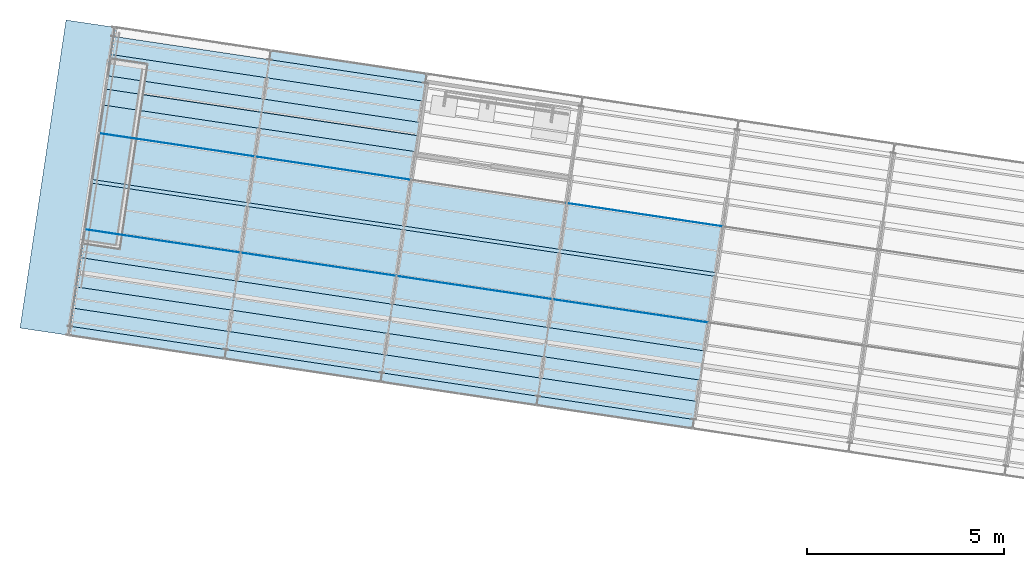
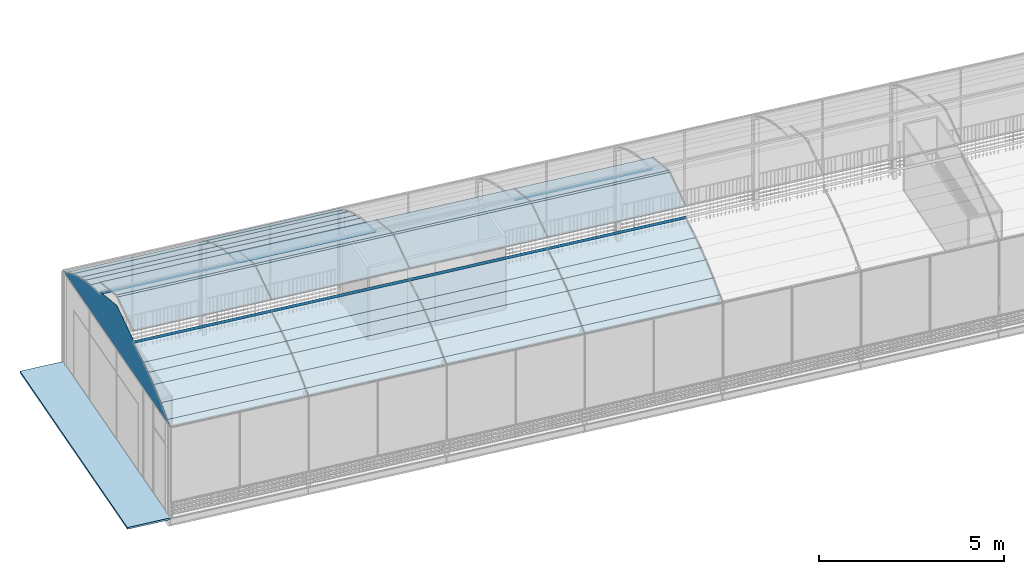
# One storey, part 25 of 34: 55 plates, 1 slab, 1 element without a shape of its own.
"""IFC4 building model written with IfcOpenShell, lengths in metres."""

from ifc_helpers import new_model, si_unit, direction, frame, origin_with_axes, place, context, subcontext, project, spatial, polyline, outline, extrude, material, element, aggregate, save


model = new_model("IFC4")

# Units and contexts
model_context = context("Model", 3, precision=1e-05, world=origin_with_axes(), true_north=direction((0.0, 1.0)))
body_context = subcontext(model_context, "Body", "Model", "MODEL_VIEW")
ifc_project = project(units=[si_unit("VOLUMEUNIT", "CUBIC_METRE"), si_unit("LENGTHUNIT", "METRE"), si_unit("AREAUNIT", "SQUARE_METRE")], contexts=[model_context])

# Site, building, storey
site_placement = place(None, origin_with_axes())
site = spatial("IfcSite", under=ifc_project, at=site_placement, Name="Lares · Rua das Mercês · artigo 4771")
building_placement = place(site_placement, frame((12.0, 10.2, 13.9), z_axis=(0.0, 0.0, 1.0), x_axis=(0.989015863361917, -0.147809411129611, 0.0)))
building = spatial("IfcBuilding", under=site, at=building_placement, Name="Casa Sobreposta")
storey_placement = place(building_placement, frame((0.0, 0.0, 3.24), z_axis=(0.0, 0.0, 1.0), x_axis=(1.0, 0.0, 0.0)))
storey = spatial("IfcBuildingStorey", under=building, at=storey_placement, Name="01 · Jardim de inverno", Elevation=17.14)

# Roof, plates
ifc_material_1 = material(Name="Vidro / Normalglas", Category="glass")
roof_placement = place(storey_placement, frame((0.0, 0.0, -3.24), z_axis=(0.0, 0.0, 1.0), x_axis=(1.0, 0.0, 0.0)))
roof = element("IfcRoof", 1, at=roof_placement, inside=storey, material=ifc_material_1, Name="Cobertura translúcida da estufa", PredefinedType="BARREL_ROOF")
plate_1_placement = place(roof_placement, frame((0.0, 0.0, 0.0), z_axis=(1.0, 0.0, 0.0), x_axis=(0.0, 1.0, 0.0)))
plate_1 = element("IfcPlate", 2, at=plate_1_placement, material=ifc_material_1, Name="Cobertura 1.1", PredefinedType="SHEET", context=body_context, shape_type="SweptSolid", body=[
    extrude(outline(polyline([(-1.5, 6.23430000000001), (-1.26765509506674, 6.32392631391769), (-1.26765509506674, 6.31592631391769), (-1.5, 6.22630000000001), (-1.5, 6.23430000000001)])), origin_with_axes(), (0.0, 0.0, 1.0), 4.0),
])
plate_2_placement = place(roof_placement, frame((4.0, 0.0, 0.0), z_axis=(1.0, 0.0, 0.0), x_axis=(0.0, 1.0, 0.0)))
plate_2 = element("IfcPlate", 3, at=plate_2_placement, material=ifc_material_1, Name="Cobertura 2.1", PredefinedType="SHEET", context=body_context, shape_type="SweptSolid", body=[
    extrude(outline(polyline([(-1.5, 6.23430000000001), (-1.26765509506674, 6.32392631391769), (-1.26765509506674, 6.31592631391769), (-1.5, 6.22630000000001), (-1.5, 6.23430000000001)])), origin_with_axes(), (0.0, 0.0, 1.0), 4.0),
])
plate_3_placement = place(roof_placement, frame((8.0, 0.0, 0.0), z_axis=(1.0, 0.0, 0.0), x_axis=(0.0, 1.0, 0.0)))
plate_3 = element("IfcPlate", 4, at=plate_3_placement, material=ifc_material_1, Name="Cobertura 3.1", PredefinedType="SHEET", context=body_context, shape_type="SweptSolid", body=[
    extrude(outline(polyline([(-1.5, 6.23430000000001), (-1.26765509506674, 6.32392631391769), (-1.26765509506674, 6.31592631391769), (-1.5, 6.22630000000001), (-1.5, 6.23430000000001)])), origin_with_axes(), (0.0, 0.0, 1.0), 4.0),
])
plate_4_placement = place(roof_placement, frame((12.0, 0.0, 0.0), z_axis=(1.0, 0.0, 0.0), x_axis=(0.0, 1.0, 0.0)))
plate_4 = element("IfcPlate", 5, at=plate_4_placement, material=ifc_material_1, Name="Cobertura 4.1", PredefinedType="SHEET", context=body_context, shape_type="SweptSolid", body=[
    extrude(outline(polyline([(-1.5, 6.23430000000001), (-1.26765509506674, 6.32392631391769), (-1.26765509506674, 6.31592631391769), (-1.5, 6.22630000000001), (-1.5, 6.23430000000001)])), origin_with_axes(), (0.0, 0.0, 1.0), 4.0),
])
plate_5_placement = place(roof_placement, frame((0.0, 0.0, 0.0), z_axis=(1.0, 0.0, 0.0), x_axis=(0.0, 1.0, 0.0)))
plate_5 = element("IfcPlate", 6, at=plate_5_placement, material=ifc_material_1, Name="Cobertura 1.2", PredefinedType="SHEET", context=body_context, shape_type="SweptSolid", body=[
    extrude(outline(polyline([(-1.26765509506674, 6.32392631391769), (-0.803062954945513, 6.57613537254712), (-0.803062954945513, 6.56813537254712), (-1.26765509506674, 6.31592631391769), (-1.26765509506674, 6.32392631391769)])), origin_with_axes(), (0.0, 0.0, 1.0), 4.0),
])
plate_6_placement = place(roof_placement, frame((4.0, 0.0, 0.0), z_axis=(1.0, 0.0, 0.0), x_axis=(0.0, 1.0, 0.0)))
plate_6 = element("IfcPlate", 7, at=plate_6_placement, material=ifc_material_1, Name="Cobertura 2.2", PredefinedType="SHEET", context=body_context, shape_type="SweptSolid", body=[
    extrude(outline(polyline([(-1.26765509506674, 6.32392631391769), (-0.803062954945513, 6.57613537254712), (-0.803062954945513, 6.56813537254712), (-1.26765509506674, 6.31592631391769), (-1.26765509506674, 6.32392631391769)])), origin_with_axes(), (0.0, 0.0, 1.0), 4.0),
])
plate_7_placement = place(roof_placement, frame((8.0, 0.0, 0.0), z_axis=(1.0, 0.0, 0.0), x_axis=(0.0, 1.0, 0.0)))
plate_7 = element("IfcPlate", 8, at=plate_7_placement, material=ifc_material_1, Name="Cobertura 3.2", PredefinedType="SHEET", context=body_context, shape_type="SweptSolid", body=[
    extrude(outline(polyline([(-1.26765509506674, 6.32392631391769), (-0.803062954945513, 6.57613537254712), (-0.803062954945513, 6.56813537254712), (-1.26765509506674, 6.31592631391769), (-1.26765509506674, 6.32392631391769)])), origin_with_axes(), (0.0, 0.0, 1.0), 4.0),
])
plate_8_placement = place(roof_placement, frame((12.0, 0.0, 0.0), z_axis=(1.0, 0.0, 0.0), x_axis=(0.0, 1.0, 0.0)))
plate_8 = element("IfcPlate", 9, at=plate_8_placement, material=ifc_material_1, Name="Cobertura 4.2", PredefinedType="SHEET", context=body_context, shape_type="SweptSolid", body=[
    extrude(outline(polyline([(-1.26765509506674, 6.32392631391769), (-0.803062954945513, 6.57613537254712), (-0.803062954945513, 6.56813537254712), (-1.26765509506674, 6.31592631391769), (-1.26765509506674, 6.32392631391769)])), origin_with_axes(), (0.0, 0.0, 1.0), 4.0),
])
plate_9_placement = place(roof_placement, frame((0.0, 0.0, 0.0), z_axis=(1.0, 0.0, 0.0), x_axis=(0.0, 1.0, 0.0)))
plate_9 = element("IfcPlate", 10, at=plate_9_placement, material=ifc_material_1, Name="Cobertura 1.3", PredefinedType="SHEET", context=body_context, shape_type="SweptSolid", body=[
    extrude(outline(polyline([(-0.803062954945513, 6.57613537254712), (-0.256488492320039, 6.81570306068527), (-0.256488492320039, 6.80770306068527), (-0.803062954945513, 6.56813537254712), (-0.803062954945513, 6.57613537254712)])), origin_with_axes(), (0.0, 0.0, 1.0), 4.0),
])
plate_10_placement = place(roof_placement, frame((4.0, 0.0, 0.0), z_axis=(1.0, 0.0, 0.0), x_axis=(0.0, 1.0, 0.0)))
plate_10 = element("IfcPlate", 11, at=plate_10_placement, material=ifc_material_1, Name="Cobertura 2.3", PredefinedType="SHEET", context=body_context, shape_type="SweptSolid", body=[
    extrude(outline(polyline([(-0.803062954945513, 6.57613537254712), (-0.256488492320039, 6.81570306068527), (-0.256488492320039, 6.80770306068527), (-0.803062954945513, 6.56813537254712), (-0.803062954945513, 6.57613537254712)])), origin_with_axes(), (0.0, 0.0, 1.0), 4.0),
])
plate_11_placement = place(roof_placement, frame((8.0, 0.0, 0.0), z_axis=(1.0, 0.0, 0.0), x_axis=(0.0, 1.0, 0.0)))
plate_11 = element("IfcPlate", 12, at=plate_11_placement, material=ifc_material_1, Name="Cobertura 3.3", PredefinedType="SHEET", context=body_context, shape_type="SweptSolid", body=[
    extrude(outline(polyline([(-0.803062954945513, 6.57613537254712), (-0.256488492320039, 6.81570306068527), (-0.256488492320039, 6.80770306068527), (-0.803062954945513, 6.56813537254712), (-0.803062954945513, 6.57613537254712)])), origin_with_axes(), (0.0, 0.0, 1.0), 4.0),
])
plate_12_placement = place(roof_placement, frame((12.0, 0.0, 0.0), z_axis=(1.0, 0.0, 0.0), x_axis=(0.0, 1.0, 0.0)))
plate_12 = element("IfcPlate", 13, at=plate_12_placement, material=ifc_material_1, Name="Cobertura 4.3", PredefinedType="SHEET", context=body_context, shape_type="SweptSolid", body=[
    extrude(outline(polyline([(-0.803062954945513, 6.57613537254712), (-0.256488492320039, 6.81570306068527), (-0.256488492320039, 6.80770306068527), (-0.803062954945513, 6.56813537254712), (-0.803062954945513, 6.57613537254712)])), origin_with_axes(), (0.0, 0.0, 1.0), 4.0),
])
plate_13_placement = place(roof_placement, frame((0.0, 0.0, 0.0), z_axis=(1.0, 0.0, 0.0), x_axis=(0.0, 1.0, 0.0)))
plate_13 = element("IfcPlate", 14, at=plate_13_placement, material=ifc_material_1, Name="Cobertura 1.4", PredefinedType="SHEET", context=body_context, shape_type="SweptSolid", body=[
    extrude(outline(polyline([(-0.256488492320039, 6.81570306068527), (0.142348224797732, 6.95669813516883), (0.142348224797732, 6.94869813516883), (-0.256488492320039, 6.80770306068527), (-0.256488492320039, 6.81570306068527)])), origin_with_axes(), (0.0, 0.0, 1.0), 4.0),
])
plate_14_placement = place(roof_placement, frame((4.0, 0.0, 0.0), z_axis=(1.0, 0.0, 0.0), x_axis=(0.0, 1.0, 0.0)))
plate_14 = element("IfcPlate", 15, at=plate_14_placement, material=ifc_material_1, Name="Cobertura 2.4", PredefinedType="SHEET", context=body_context, shape_type="SweptSolid", body=[
    extrude(outline(polyline([(-0.256488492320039, 6.81570306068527), (0.142348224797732, 6.95669813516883), (0.142348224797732, 6.94869813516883), (-0.256488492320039, 6.80770306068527), (-0.256488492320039, 6.81570306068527)])), origin_with_axes(), (0.0, 0.0, 1.0), 4.0),
])
plate_15_placement = place(roof_placement, frame((8.0, 0.0, 0.0), z_axis=(1.0, 0.0, 0.0), x_axis=(0.0, 1.0, 0.0)))
plate_15 = element("IfcPlate", 16, at=plate_15_placement, material=ifc_material_1, Name="Cobertura 3.4", PredefinedType="SHEET", context=body_context, shape_type="SweptSolid", body=[
    extrude(outline(polyline([(-0.256488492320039, 6.81570306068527), (0.142348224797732, 6.95669813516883), (0.142348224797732, 6.94869813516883), (-0.256488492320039, 6.80770306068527), (-0.256488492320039, 6.81570306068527)])), origin_with_axes(), (0.0, 0.0, 1.0), 4.0),
])
plate_16_placement = place(roof_placement, frame((12.0, 0.0, 0.0), z_axis=(1.0, 0.0, 0.0), x_axis=(0.0, 1.0, 0.0)))
plate_16 = element("IfcPlate", 17, at=plate_16_placement, material=ifc_material_1, Name="Cobertura 4.4", PredefinedType="SHEET", context=body_context, shape_type="SweptSolid", body=[
    extrude(outline(polyline([(-0.256488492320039, 6.81570306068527), (0.142348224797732, 6.95669813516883), (0.142348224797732, 6.94869813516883), (-0.256488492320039, 6.80770306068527), (-0.256488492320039, 6.81570306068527)])), origin_with_axes(), (0.0, 0.0, 1.0), 4.0),
])
plate_17_placement = place(roof_placement, frame((0.0, 0.0, 0.0), z_axis=(1.0, 0.0, 0.0), x_axis=(0.0, 1.0, 0.0)))
plate_17 = element("IfcPlate", 18, at=plate_17_placement, material=ifc_material_1, Name="Cobertura 1.5", PredefinedType="SHEET", context=body_context, shape_type="SweptSolid", body=[
    extrude(outline(polyline([(0.142348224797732, 6.95669813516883), (0.493171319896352, 7.05943931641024), (0.493171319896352, 7.05143931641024), (0.142348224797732, 6.94869813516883), (0.142348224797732, 6.95669813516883)])), origin_with_axes(), (0.0, 0.0, 1.0), 4.0),
])
plate_18_placement = place(roof_placement, frame((4.0, 0.0, 0.0), z_axis=(1.0, 0.0, 0.0), x_axis=(0.0, 1.0, 0.0)))
plate_18 = element("IfcPlate", 19, at=plate_18_placement, material=ifc_material_1, Name="Cobertura 2.5", PredefinedType="SHEET", context=body_context, shape_type="SweptSolid", body=[
    extrude(outline(polyline([(0.142348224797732, 6.95669813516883), (0.493171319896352, 7.05943931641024), (0.493171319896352, 7.05143931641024), (0.142348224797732, 6.94869813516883), (0.142348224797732, 6.95669813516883)])), origin_with_axes(), (0.0, 0.0, 1.0), 4.0),
])
plate_19_placement = place(roof_placement, frame((8.0, 0.0, 0.0), z_axis=(1.0, 0.0, 0.0), x_axis=(0.0, 1.0, 0.0)))
plate_19 = element("IfcPlate", 20, at=plate_19_placement, material=ifc_material_1, Name="Cobertura 3.5", PredefinedType="SHEET", context=body_context, shape_type="SweptSolid", body=[
    extrude(outline(polyline([(0.142348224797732, 6.95669813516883), (0.493171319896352, 7.05943931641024), (0.493171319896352, 7.05143931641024), (0.142348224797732, 6.94869813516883), (0.142348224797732, 6.95669813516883)])), origin_with_axes(), (0.0, 0.0, 1.0), 4.0),
])
plate_20_placement = place(roof_placement, frame((12.0, 0.0, 0.0), z_axis=(1.0, 0.0, 0.0), x_axis=(0.0, 1.0, 0.0)))
plate_20 = element("IfcPlate", 21, at=plate_20_placement, material=ifc_material_1, Name="Cobertura 4.5", PredefinedType="SHEET", context=body_context, shape_type="SweptSolid", body=[
    extrude(outline(polyline([(0.142348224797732, 6.95669813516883), (0.493171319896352, 7.05943931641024), (0.493171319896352, 7.05143931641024), (0.142348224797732, 6.94869813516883), (0.142348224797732, 6.95669813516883)])), origin_with_axes(), (0.0, 0.0, 1.0), 4.0),
])
plate_21_placement = place(roof_placement, frame((0.0, 0.0, 0.0), z_axis=(1.0, 0.0, 0.0), x_axis=(0.0, 1.0, 0.0)))
plate_21 = element("IfcPlate", 22, at=plate_21_placement, material=ifc_material_1, Name="Cobertura 1.6", PredefinedType="SHEET", context=body_context, shape_type="SweptSolid", body=[
    extrude(outline(polyline([(0.493171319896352, 7.05943931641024), (1.21440957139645, 7.21329402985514), (1.21440957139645, 7.20529402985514), (0.493171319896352, 7.05143931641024), (0.493171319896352, 7.05943931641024)])), origin_with_axes(), (0.0, 0.0, 1.0), 4.0),
])
plate_22_placement = place(roof_placement, frame((4.0, 0.0, 0.0), z_axis=(1.0, 0.0, 0.0), x_axis=(0.0, 1.0, 0.0)))
plate_22 = element("IfcPlate", 23, at=plate_22_placement, material=ifc_material_1, Name="Cobertura 2.6", PredefinedType="SHEET", context=body_context, shape_type="SweptSolid", body=[
    extrude(outline(polyline([(0.493171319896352, 7.05943931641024), (1.21440957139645, 7.21329402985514), (1.21440957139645, 7.20529402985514), (0.493171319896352, 7.05143931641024), (0.493171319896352, 7.05943931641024)])), origin_with_axes(), (0.0, 0.0, 1.0), 4.0),
])
plate_23_placement = place(roof_placement, frame((8.0, 0.0, 0.0), z_axis=(1.0, 0.0, 0.0), x_axis=(0.0, 1.0, 0.0)))
plate_23 = element("IfcPlate", 24, at=plate_23_placement, material=ifc_material_1, Name="Cobertura 3.6", PredefinedType="SHEET", context=body_context, shape_type="SweptSolid", body=[
    extrude(outline(polyline([(0.493171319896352, 7.05943931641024), (1.21440957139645, 7.21329402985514), (1.21440957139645, 7.20529402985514), (0.493171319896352, 7.05143931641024), (0.493171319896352, 7.05943931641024)])), origin_with_axes(), (0.0, 0.0, 1.0), 4.0),
])
plate_24_placement = place(roof_placement, frame((12.0, 0.0, 0.0), z_axis=(1.0, 0.0, 0.0), x_axis=(0.0, 1.0, 0.0)))
plate_24 = element("IfcPlate", 25, at=plate_24_placement, material=ifc_material_1, Name="Cobertura 4.6", PredefinedType="SHEET", context=body_context, shape_type="SweptSolid", body=[
    extrude(outline(polyline([(0.493171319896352, 7.05943931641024), (1.21440957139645, 7.21329402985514), (1.21440957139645, 7.20529402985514), (0.493171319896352, 7.05143931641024), (0.493171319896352, 7.05943931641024)])), origin_with_axes(), (0.0, 0.0, 1.0), 4.0),
])
plate_25_placement = place(roof_placement, frame((0.0, 0.0, 0.0), z_axis=(1.0, 0.0, 0.0), x_axis=(0.0, 1.0, 0.0)))
plate_25 = element("IfcPlate", 26, at=plate_25_placement, material=ifc_material_1, Name="Cobertura 1.7", PredefinedType="SHEET", context=body_context, shape_type="SweptSolid", body=[
    extrude(outline(polyline([(1.21440957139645, 7.21329402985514), (1.22042020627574, 7.30067689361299), (1.22042020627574, 7.29267689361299), (1.21440957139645, 7.20529402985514), (1.21440957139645, 7.21329402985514)])), origin_with_axes(), (0.0, 0.0, 1.0), 4.0),
])
plate_26_placement = place(roof_placement, frame((4.0, 0.0, 0.0), z_axis=(1.0, 0.0, 0.0), x_axis=(0.0, 1.0, 0.0)))
plate_26 = element("IfcPlate", 27, at=plate_26_placement, material=ifc_material_1, Name="Cobertura 2.7", PredefinedType="SHEET", context=body_context, shape_type="SweptSolid", body=[
    extrude(outline(polyline([(1.21440957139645, 7.21329402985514), (1.22042020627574, 7.30067689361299), (1.22042020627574, 7.29267689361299), (1.21440957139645, 7.20529402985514), (1.21440957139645, 7.21329402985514)])), origin_with_axes(), (0.0, 0.0, 1.0), 4.0),
])
plate_27_placement = place(roof_placement, frame((8.0, 0.0, 0.0), z_axis=(1.0, 0.0, 0.0), x_axis=(0.0, 1.0, 0.0)))
plate_27 = element("IfcPlate", 28, at=plate_27_placement, material=ifc_material_1, Name="Cobertura 3.7", PredefinedType="SHEET", context=body_context, shape_type="SweptSolid", body=[
    extrude(outline(polyline([(1.21440957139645, 7.21329402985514), (1.22042020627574, 7.30067689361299), (1.22042020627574, 7.29267689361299), (1.21440957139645, 7.20529402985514), (1.21440957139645, 7.21329402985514)])), origin_with_axes(), (0.0, 0.0, 1.0), 4.0),
])
plate_28_placement = place(roof_placement, frame((12.0, 0.0, 0.0), z_axis=(1.0, 0.0, 0.0), x_axis=(0.0, 1.0, 0.0)))
plate_28 = element("IfcPlate", 29, at=plate_28_placement, material=ifc_material_1, Name="Cobertura 4.7", PredefinedType="SHEET", context=body_context, shape_type="SweptSolid", body=[
    extrude(outline(polyline([(1.21440957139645, 7.21329402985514), (1.22042020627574, 7.30067689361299), (1.22042020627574, 7.29267689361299), (1.21440957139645, 7.20529402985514), (1.21440957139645, 7.21329402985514)])), origin_with_axes(), (0.0, 0.0, 1.0), 4.0),
])
plate_29_placement = place(roof_placement, frame((0.0, 0.0, 0.0), z_axis=(1.0, 0.0, 0.0), x_axis=(0.0, 1.0, 0.0)))
plate_29 = element("IfcPlate", 30, at=plate_29_placement, material=ifc_material_1, Name="Cobertura 1.8", PredefinedType="SHEET", context=body_context, shape_type="SweptSolid", body=[
    extrude(outline(polyline([(1.22042020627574, 7.62067689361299), (2.40274082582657, 7.96518238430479), (2.40274082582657, 7.95718238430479), (1.22042020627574, 7.61267689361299), (1.22042020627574, 7.62067689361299)])), origin_with_axes(), (0.0, 0.0, 1.0), 4.0),
])
plate_30_placement = place(roof_placement, frame((4.0, 0.0, 0.0), z_axis=(1.0, 0.0, 0.0), x_axis=(0.0, 1.0, 0.0)))
plate_30 = element("IfcPlate", 31, at=plate_30_placement, material=ifc_material_1, Name="Cobertura 2.8", PredefinedType="SHEET", context=body_context, shape_type="SweptSolid", body=[
    extrude(outline(polyline([(1.22042020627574, 7.62067689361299), (2.40274082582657, 7.96518238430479), (2.40274082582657, 7.95718238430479), (1.22042020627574, 7.61267689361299), (1.22042020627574, 7.62067689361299)])), origin_with_axes(), (0.0, 0.0, 1.0), 4.0),
])
plate_31_placement = place(roof_placement, frame((8.0, 0.0, 0.0), z_axis=(1.0, 0.0, 0.0), x_axis=(0.0, 1.0, 0.0)))
plate_31 = element("IfcPlate", 32, at=plate_31_placement, material=ifc_material_1, Name="Cobertura 3.8", PredefinedType="SHEET", context=body_context, shape_type="SweptSolid", body=[
    extrude(outline(polyline([(1.22042020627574, 7.62067689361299), (2.40274082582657, 7.96518238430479), (2.40274082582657, 7.95718238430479), (1.22042020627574, 7.61267689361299), (1.22042020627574, 7.62067689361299)])), origin_with_axes(), (0.0, 0.0, 1.0), 4.0),
])
plate_32_placement = place(roof_placement, frame((12.0, 0.0, 0.0), z_axis=(1.0, 0.0, 0.0), x_axis=(0.0, 1.0, 0.0)))
plate_32 = element("IfcPlate", 33, at=plate_32_placement, material=ifc_material_1, Name="Cobertura 4.8", PredefinedType="SHEET", context=body_context, shape_type="SweptSolid", body=[
    extrude(outline(polyline([(1.22042020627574, 7.62067689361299), (2.40274082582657, 7.96518238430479), (2.40274082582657, 7.95718238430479), (1.22042020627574, 7.61267689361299), (1.22042020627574, 7.62067689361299)])), origin_with_axes(), (0.0, 0.0, 1.0), 4.0),
])
plate_33_placement = place(roof_placement, frame((0.0, 0.0, 0.0), z_axis=(1.0, 0.0, 0.0), x_axis=(0.0, 1.0, 0.0)))
plate_33 = element("IfcPlate", 34, at=plate_33_placement, material=ifc_material_1, Name="Cobertura 1.9", PredefinedType="SHEET", context=body_context, shape_type="SweptSolid", body=[
    extrude(outline(polyline([(2.40274082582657, 7.96518238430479), (2.49770027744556, 7.96518238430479), (2.49770027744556, 7.95718238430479), (2.40274082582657, 7.95718238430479), (2.40274082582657, 7.96518238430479)])), origin_with_axes(), (0.0, 0.0, 1.0), 4.0),
])
plate_34_placement = place(roof_placement, frame((4.0, 0.0, 0.0), z_axis=(1.0, 0.0, 0.0), x_axis=(0.0, 1.0, 0.0)))
plate_34 = element("IfcPlate", 35, at=plate_34_placement, material=ifc_material_1, Name="Cobertura 2.9", PredefinedType="SHEET", context=body_context, shape_type="SweptSolid", body=[
    extrude(outline(polyline([(2.40274082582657, 7.96518238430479), (2.49770027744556, 7.96518238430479), (2.49770027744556, 7.95718238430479), (2.40274082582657, 7.95718238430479), (2.40274082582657, 7.96518238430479)])), origin_with_axes(), (0.0, 0.0, 1.0), 4.0),
])
plate_35_placement = place(roof_placement, frame((8.0, 0.0, 0.0), z_axis=(1.0, 0.0, 0.0), x_axis=(0.0, 1.0, 0.0)))
plate_35 = element("IfcPlate", 36, at=plate_35_placement, material=ifc_material_1, Name="Cobertura 3.9", PredefinedType="SHEET", context=body_context, shape_type="SweptSolid", body=[
    extrude(outline(polyline([(2.40274082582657, 7.96518238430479), (2.49770027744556, 7.96518238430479), (2.49770027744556, 7.95718238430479), (2.40274082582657, 7.95718238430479), (2.40274082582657, 7.96518238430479)])), origin_with_axes(), (0.0, 0.0, 1.0), 4.0),
])
plate_36_placement = place(roof_placement, frame((12.0, 0.0, 0.0), z_axis=(1.0, 0.0, 0.0), x_axis=(0.0, 1.0, 0.0)))
plate_36 = element("IfcPlate", 37, at=plate_36_placement, material=ifc_material_1, Name="Cobertura 4.9", PredefinedType="SHEET", context=body_context, shape_type="SweptSolid", body=[
    extrude(outline(polyline([(2.40274082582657, 7.96518238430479), (2.49770027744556, 7.96518238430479), (2.49770027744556, 7.95718238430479), (2.40274082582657, 7.95718238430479), (2.40274082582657, 7.96518238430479)])), origin_with_axes(), (0.0, 0.0, 1.0), 4.0),
])
plate_37_placement = place(roof_placement, frame((0.0, 0.0, 0.0), z_axis=(1.0, 0.0, 0.0), x_axis=(0.0, 1.0, 0.0)))
plate_37 = element("IfcPlate", 38, at=plate_37_placement, material=ifc_material_1, Name="Cobertura 1.10", PredefinedType="SHEET", context=body_context, shape_type="SweptSolid", body=[
    extrude(outline(polyline([(2.49770027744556, 7.96518238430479), (3.68002089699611, 7.62067689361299), (3.68002089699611, 7.61267689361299), (2.49770027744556, 7.95718238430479), (2.49770027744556, 7.96518238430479)])), origin_with_axes(), (0.0, 0.0, 1.0), 4.0),
])
plate_38_placement = place(roof_placement, frame((4.0, 0.0, 0.0), z_axis=(1.0, 0.0, 0.0), x_axis=(0.0, 1.0, 0.0)))
plate_38 = element("IfcPlate", 39, at=plate_38_placement, material=ifc_material_1, Name="Cobertura 2.10", PredefinedType="SHEET", context=body_context, shape_type="SweptSolid", body=[
    extrude(outline(polyline([(2.49770027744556, 7.96518238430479), (3.68002089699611, 7.62067689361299), (3.68002089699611, 7.61267689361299), (2.49770027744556, 7.95718238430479), (2.49770027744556, 7.96518238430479)])), origin_with_axes(), (0.0, 0.0, 1.0), 4.0),
])
plate_39_placement = place(roof_placement, frame((8.0, 0.0, 0.0), z_axis=(1.0, 0.0, 0.0), x_axis=(0.0, 1.0, 0.0)))
plate_39 = element("IfcPlate", 40, at=plate_39_placement, material=ifc_material_1, Name="Cobertura 3.10", PredefinedType="SHEET", context=body_context, shape_type="SweptSolid", body=[
    extrude(outline(polyline([(2.49770027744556, 7.96518238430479), (3.68002089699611, 7.62067689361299), (3.68002089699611, 7.61267689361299), (2.49770027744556, 7.95718238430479), (2.49770027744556, 7.96518238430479)])), origin_with_axes(), (0.0, 0.0, 1.0), 4.0),
])
plate_40_placement = place(roof_placement, frame((12.0, 0.0, 0.0), z_axis=(1.0, 0.0, 0.0), x_axis=(0.0, 1.0, 0.0)))
plate_40 = element("IfcPlate", 41, at=plate_40_placement, material=ifc_material_1, Name="Cobertura 4.10", PredefinedType="SHEET", context=body_context, shape_type="SweptSolid", body=[
    extrude(outline(polyline([(2.49770027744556, 7.96518238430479), (3.68002089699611, 7.62067689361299), (3.68002089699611, 7.61267689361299), (2.49770027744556, 7.95718238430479), (2.49770027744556, 7.96518238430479)])), origin_with_axes(), (0.0, 0.0, 1.0), 4.0),
])
plate_41_placement = place(roof_placement, frame((0.0, 0.0, 0.0), z_axis=(1.0, 0.0, 0.0), x_axis=(0.0, 1.0, 0.0)))
plate_41 = element("IfcPlate", 42, at=plate_41_placement, material=ifc_material_1, Name="Cobertura 1.11", PredefinedType="SHEET", context=body_context, shape_type="SweptSolid", body=[
    extrude(outline(polyline([(3.68002089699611, 7.30067689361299), (3.68573096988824, 7.21327919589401), (3.68573096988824, 7.20527919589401), (3.68002089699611, 7.29267689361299), (3.68002089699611, 7.30067689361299)])), origin_with_axes(), (0.0, 0.0, 1.0), 4.0),
])
plate_42_placement = place(roof_placement, frame((4.0, 0.0, 0.0), z_axis=(1.0, 0.0, 0.0), x_axis=(0.0, 1.0, 0.0)))
plate_42 = element("IfcPlate", 43, at=plate_42_placement, material=ifc_material_1, Name="Cobertura 2.11", PredefinedType="SHEET", context=body_context, shape_type="SweptSolid", body=[
    extrude(outline(polyline([(3.68002089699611, 7.30067689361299), (3.68573096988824, 7.21327919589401), (3.68573096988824, 7.20527919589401), (3.68002089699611, 7.29267689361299), (3.68002089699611, 7.30067689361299)])), origin_with_axes(), (0.0, 0.0, 1.0), 4.0),
])
plate_43_placement = place(roof_placement, frame((12.0, 0.0, 0.0), z_axis=(1.0, 0.0, 0.0), x_axis=(0.0, 1.0, 0.0)))
plate_43 = element("IfcPlate", 44, at=plate_43_placement, material=ifc_material_1, Name="Cobertura 4.11", PredefinedType="SHEET", context=body_context, shape_type="SweptSolid", body=[
    extrude(outline(polyline([(3.68002089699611, 7.30067689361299), (3.68573096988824, 7.21327919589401), (3.68573096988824, 7.20527919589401), (3.68002089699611, 7.29267689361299), (3.68002089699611, 7.30067689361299)])), origin_with_axes(), (0.0, 0.0, 1.0), 4.0),
])
plate_44_placement = place(roof_placement, frame((0.0, 0.0, 0.0), z_axis=(1.0, 0.0, 0.0), x_axis=(0.0, 1.0, 0.0)))
plate_44 = element("IfcPlate", 45, at=plate_44_placement, material=ifc_material_1, Name="Cobertura 1.12", PredefinedType="SHEET", context=body_context, shape_type="SweptSolid", body=[
    extrude(outline(polyline([(3.68573096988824, 7.21327919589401), (4.40690649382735, 7.05944154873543), (4.40690649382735, 7.05144154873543), (3.68573096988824, 7.20527919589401), (3.68573096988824, 7.21327919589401)])), origin_with_axes(), (0.0, 0.0, 1.0), 4.0),
])
plate_45_placement = place(roof_placement, frame((4.0, 0.0, 0.0), z_axis=(1.0, 0.0, 0.0), x_axis=(0.0, 1.0, 0.0)))
plate_45 = element("IfcPlate", 46, at=plate_45_placement, material=ifc_material_1, Name="Cobertura 2.12", PredefinedType="SHEET", context=body_context, shape_type="SweptSolid", body=[
    extrude(outline(polyline([(3.68573096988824, 7.21327919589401), (4.40690649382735, 7.05944154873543), (4.40690649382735, 7.05144154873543), (3.68573096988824, 7.20527919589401), (3.68573096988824, 7.21327919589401)])), origin_with_axes(), (0.0, 0.0, 1.0), 4.0),
])
plate_46_placement = place(roof_placement, frame((0.0, 0.0, 0.0), z_axis=(1.0, 0.0, 0.0), x_axis=(0.0, 1.0, 0.0)))
plate_46 = element("IfcPlate", 47, at=plate_46_placement, material=ifc_material_1, Name="Cobertura 1.13", PredefinedType="SHEET", context=body_context, shape_type="SweptSolid", body=[
    extrude(outline(polyline([(4.40690649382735, 7.05944154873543), (4.81540166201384, 6.93795392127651), (4.81540166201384, 6.92995392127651), (4.40690649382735, 7.05144154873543), (4.40690649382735, 7.05944154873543)])), origin_with_axes(), (0.0, 0.0, 1.0), 4.0),
])
plate_47_placement = place(roof_placement, frame((4.0, 0.0, 0.0), z_axis=(1.0, 0.0, 0.0), x_axis=(0.0, 1.0, 0.0)))
plate_47 = element("IfcPlate", 48, at=plate_47_placement, material=ifc_material_1, Name="Cobertura 2.13", PredefinedType="SHEET", context=body_context, shape_type="SweptSolid", body=[
    extrude(outline(polyline([(4.40690649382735, 7.05944154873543), (4.81540166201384, 6.93795392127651), (4.81540166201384, 6.92995392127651), (4.40690649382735, 7.05144154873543), (4.40690649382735, 7.05944154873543)])), origin_with_axes(), (0.0, 0.0, 1.0), 4.0),
])
plate_48_placement = place(roof_placement, frame((0.0, 0.0, 0.0), z_axis=(1.0, 0.0, 0.0), x_axis=(0.0, 1.0, 0.0)))
plate_48 = element("IfcPlate", 49, at=plate_48_placement, material=ifc_material_1, Name="Cobertura 1.14", PredefinedType="SHEET", context=body_context, shape_type="SweptSolid", body=[
    extrude(outline(polyline([(4.81540166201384, 6.93795392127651), (5.15650506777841, 6.8157371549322), (5.15650506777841, 6.8077371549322), (4.81540166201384, 6.92995392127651), (4.81540166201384, 6.93795392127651)])), origin_with_axes(), (0.0, 0.0, 1.0), 4.0),
])
plate_49_placement = place(roof_placement, frame((4.0, 0.0, 0.0), z_axis=(1.0, 0.0, 0.0), x_axis=(0.0, 1.0, 0.0)))
plate_49 = element("IfcPlate", 50, at=plate_49_placement, material=ifc_material_1, Name="Cobertura 2.14", PredefinedType="SHEET", context=body_context, shape_type="SweptSolid", body=[
    extrude(outline(polyline([(4.81540166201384, 6.93795392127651), (5.15650506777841, 6.8157371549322), (5.15650506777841, 6.8077371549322), (4.81540166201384, 6.92995392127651), (4.81540166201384, 6.93795392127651)])), origin_with_axes(), (0.0, 0.0, 1.0), 4.0),
])
plate_50_placement = place(roof_placement, frame((0.0, 0.0, 0.0), z_axis=(1.0, 0.0, 0.0), x_axis=(0.0, 1.0, 0.0)))
plate_50 = element("IfcPlate", 51, at=plate_50_placement, material=ifc_material_1, Name="Cobertura 1.15", PredefinedType="SHEET", context=body_context, shape_type="SweptSolid", body=[
    extrude(outline(polyline([(5.15650506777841, 6.8157371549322), (5.70303916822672, 6.57620268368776), (5.70303916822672, 6.56820268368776), (5.15650506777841, 6.8077371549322), (5.15650506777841, 6.8157371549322)])), origin_with_axes(), (0.0, 0.0, 1.0), 4.0),
])
plate_51_placement = place(roof_placement, frame((4.0, 0.0, 0.0), z_axis=(1.0, 0.0, 0.0), x_axis=(0.0, 1.0, 0.0)))
plate_51 = element("IfcPlate", 52, at=plate_51_placement, material=ifc_material_1, Name="Cobertura 2.15", PredefinedType="SHEET", context=body_context, shape_type="SweptSolid", body=[
    extrude(outline(polyline([(5.15650506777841, 6.8157371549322), (5.70303916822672, 6.57620268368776), (5.70303916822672, 6.56820268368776), (5.15650506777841, 6.8077371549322), (5.15650506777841, 6.8157371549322)])), origin_with_axes(), (0.0, 0.0, 1.0), 4.0),
])
plate_52_placement = place(roof_placement, frame((0.0, 0.0, 0.0), z_axis=(1.0, 0.0, 0.0), x_axis=(0.0, 1.0, 0.0)))
plate_52 = element("IfcPlate", 53, at=plate_52_placement, material=ifc_material_1, Name="Cobertura 1.16", PredefinedType="SHEET", context=body_context, shape_type="SweptSolid", body=[
    extrude(outline(polyline([(5.70303916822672, 6.57620268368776), (6.16760124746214, 6.3240293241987), (6.16760124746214, 6.3160293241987), (5.70303916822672, 6.56820268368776), (5.70303916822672, 6.57620268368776)])), origin_with_axes(), (0.0, 0.0, 1.0), 4.0),
])
plate_53_placement = place(roof_placement, frame((4.0, 0.0, 0.0), z_axis=(1.0, 0.0, 0.0), x_axis=(0.0, 1.0, 0.0)))
plate_53 = element("IfcPlate", 54, at=plate_53_placement, material=ifc_material_1, Name="Cobertura 2.16", PredefinedType="SHEET", context=body_context, shape_type="SweptSolid", body=[
    extrude(outline(polyline([(5.70303916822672, 6.57620268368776), (6.16760124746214, 6.3240293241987), (6.16760124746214, 6.3160293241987), (5.70303916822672, 6.56820268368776), (5.70303916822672, 6.57620268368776)])), origin_with_axes(), (0.0, 0.0, 1.0), 4.0),
])
plate_54_placement = place(roof_placement, frame((4.0, 0.0, 0.0), z_axis=(1.0, 0.0, 0.0), x_axis=(0.0, 1.0, 0.0)))
plate_54 = element("IfcPlate", 55, at=plate_54_placement, material=ifc_material_1, Name="Cobertura 2.17", PredefinedType="SHEET", context=body_context, shape_type="SweptSolid", body=[
    extrude(outline(polyline([(6.16760124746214, 6.3240293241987), (6.39999999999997, 6.23430000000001), (6.39999999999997, 6.22630000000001), (6.16760124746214, 6.3160293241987), (6.16760124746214, 6.3240293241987)])), origin_with_axes(), (0.0, 0.0, 1.0), 4.0),
])
plate_55_placement = place(roof_placement, frame((0.0, 0.0, 0.0), z_axis=(1.0, 0.0, 0.0), x_axis=(0.0, 1.0, 0.0)))
plate_55 = element("IfcPlate", 56, at=plate_55_placement, material=ifc_material_1, Name="Empena da estufa", context=body_context, shape_type="SweptSolid", body=[
    extrude(outline(polyline([(-1.5, 6.22), (-1.5, 6.23430000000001), (-1.26765509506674, 6.32392631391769), (-1.21743691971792, 6.35359791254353), (-1.16685614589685, 6.38286403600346), (-1.11591778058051, 6.41172178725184), (-1.06462686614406, 6.4401683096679), (-1.01298847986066, 6.46820078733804), (-0.961007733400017, 6.49581644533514), (-0.908689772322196, 6.52301254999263), (-0.856039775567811, 6.54978640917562), (-0.803062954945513, 6.57613537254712), (-0.749764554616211, 6.6020568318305), (-0.696149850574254, 6.62754822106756), (-0.642224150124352, 6.6526070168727), (-0.587992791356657, 6.67723073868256), (-0.533461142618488, 6.70141694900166), (-0.478634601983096, 6.72516325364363), (-0.423518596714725, 6.74846730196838), (-0.368118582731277, 6.77132678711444), (-0.312440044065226, 6.79373944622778), (-0.256488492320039, 6.81570306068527), (-0.200269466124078, 6.83721545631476), (-0.143788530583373, 6.85827450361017), (-0.0870512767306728, 6.87887811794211), (-0.0300633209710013, 6.89902425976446), (0.0271696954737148, 6.9187109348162), (0.0846421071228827, 6.93793619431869), (0.142348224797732, 6.95669813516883), (0.200282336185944, 6.97499490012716), (0.258438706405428, 6.99282467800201), (0.316811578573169, 7.01018570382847), (0.375395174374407, 7.02707625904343), (0.434183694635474, 7.04349467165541), (0.493171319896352, 7.05943931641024), (0.552352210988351, 7.07490861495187), (0.611720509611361, 7.08990103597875), (0.671270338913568, 7.1044150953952), (0.730995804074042, 7.11844935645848), (0.790890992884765, 7.13200242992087), (0.85094997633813, 7.14507297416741), (0.911166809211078, 7.15765969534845), (0.971535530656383, 7.16976134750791), (1.03205016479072, 7.1813767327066), (1.09270472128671, 7.19250470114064), (1.15349319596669, 7.20314415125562), (1.21440957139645, 7.21329402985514), (1.22042020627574, 7.30067689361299), (2.40274082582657, 7.64518238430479), (2.49770027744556, 7.64518238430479), (3.68002089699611, 7.30067689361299), (3.68573096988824, 7.21327919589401), (3.74664195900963, 7.20313026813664), (3.80742507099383, 7.19249185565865), (3.86807429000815, 7.18136501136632), (3.92858361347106, 7.16975083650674), (3.9889470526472, 7.15765048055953), (4.04915863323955, 7.14506514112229), (4.10921239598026, 7.13199606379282), (4.1691023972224, 7.11844454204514), (4.22882270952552, 7.10441191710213), (4.28836742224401, 7.08989957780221), (4.34773064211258, 7.07490896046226), (4.40690649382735, 7.05944154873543), (4.46588912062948, 7.04349887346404), (4.52467268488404, 7.02708251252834), (4.58325136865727, 7.01019409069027), (4.64161937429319, 6.99283527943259), (4.69977092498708, 6.97500779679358), (4.75770026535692, 6.95671340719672), (4.81540166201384, 6.93795392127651), (4.87286940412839, 6.91873119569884), (4.93009780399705, 6.89904713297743), (4.98708119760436, 6.87890368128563), (5.04381394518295, 6.85830283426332), (5.10029043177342, 6.83724663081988), (5.15650506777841, 6.8157371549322), (5.21245228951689, 6.79377653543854), (5.26812655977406, 6.77136694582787), (5.32352236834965, 6.74851060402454), (5.37863423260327, 6.72520977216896), (5.43345669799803, 6.70146675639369), (5.48798433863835, 6.67728390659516), (5.54221175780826, 6.65266361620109), (5.59613358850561, 6.62760832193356), (5.64974449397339, 6.60212050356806), (5.70303916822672, 6.57620268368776), (5.75601233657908, 6.54985742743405), (5.80865875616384, 6.52308734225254), (5.86097321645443, 6.49589507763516), (5.9129505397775, 6.46828332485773), (5.9645855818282, 6.44025481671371), (6.01587323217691, 6.41181232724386), (6.0668084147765, 6.38295867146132), (6.11738608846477, 6.35369670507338), (6.16760124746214, 6.3240293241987), (6.39999999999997, 6.23430000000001), (6.39999999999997, 6.22), (-1.5, 6.22)])), origin_with_axes(), (0.0, 0.0, 1.0), 0.008),
])
aggregate(roof, [plate_1, plate_2, plate_3, plate_4, plate_5, plate_6, plate_7, plate_8, plate_9, plate_10, plate_11, plate_12, plate_13, plate_14, plate_15, plate_16, plate_17, plate_18, plate_19, plate_20, plate_21, plate_22, plate_23, plate_24, plate_25, plate_26, plate_27, plate_28, plate_29, plate_30, plate_31, plate_32, plate_33, plate_34, plate_35, plate_36, plate_37, plate_38, plate_39, plate_40, plate_41, plate_42, plate_43, plate_44, plate_45, plate_46, plate_47, plate_48, plate_49, plate_50, plate_51, plate_52, plate_53, plate_54, plate_55])

# Slab
ifc_material_2 = material(Name="Aço galvanizado / Stahl verzinkt", Category="steel")
slab_placement = place(storey_placement, frame((0.0, 0.0, -0.0600000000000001), z_axis=(0.0, 0.0, 1.0), x_axis=(1.0, 0.0, 0.0)))
element("IfcSlab", 57, at=slab_placement, inside=storey, material=ifc_material_2, Name="Varanda · faixa poente 1,20 m úteis", PredefinedType="FLOOR", context=body_context, shape_type="SweptSolid", body=[
    extrude(outline(polyline([(0.0, -1.5), (0.0, 6.4), (-1.25, 6.4), (-1.25, -1.5), (0.0, -1.5)])), origin_with_axes(), (0.0, 0.0, 1.0), 0.06),
])

save(model, "model.ifc")
